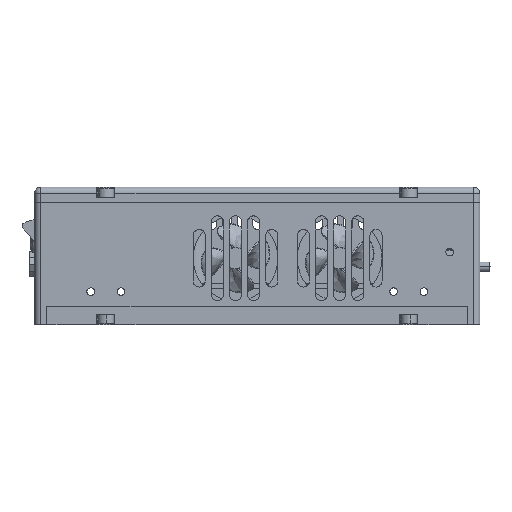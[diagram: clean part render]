
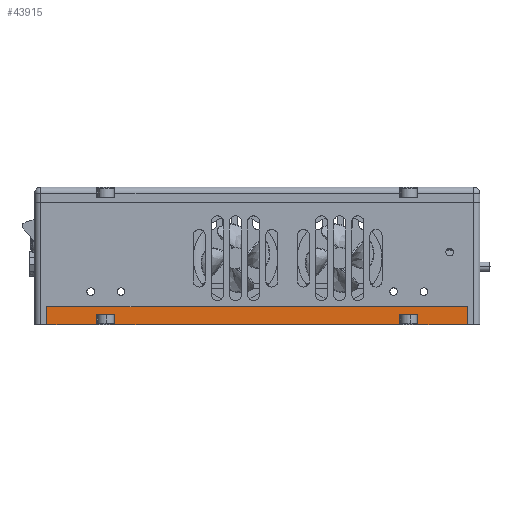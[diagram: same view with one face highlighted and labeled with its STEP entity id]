
A CAD part, left-side view. The second image highlights one B-rep face of the part: STEP entity #43915.
In plain terms, the highlighted planar face has unit normal (-1, 0, 0).
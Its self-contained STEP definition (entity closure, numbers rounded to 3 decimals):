
#355 = DIRECTION ( 'NONE',  ( 0., 0., -1. ) ) ;
#491 = EDGE_CURVE ( 'NONE', #34944, #37109, #7427, .T. ) ;
#760 = EDGE_CURVE ( 'NONE', #12449, #11922, #35094, .T. ) ;
#1223 = CARTESIAN_POINT ( 'NONE',  ( -83.28, -49.464, 163.4 ) ) ;
#3134 = CARTESIAN_POINT ( 'NONE',  ( -83.28, 73.036, 160. ) ) ;
#3333 = CARTESIAN_POINT ( 'NONE',  ( -83.28, -43.464, 163.4 ) ) ;
#3412 = VECTOR ( 'NONE', #47451, 1000. ) ;
#4203 = ORIENTED_EDGE ( 'NONE', *, *, #491, .T. ) ;
#4532 = VERTEX_POINT ( 'NONE', #40399 ) ;
#4608 = VECTOR ( 'NONE', #16336, 1000. ) ;
#5352 = EDGE_CURVE ( 'NONE', #12449, #4532, #7172, .T. ) ;
#5777 = DIRECTION ( 'NONE',  ( 0., 0., -1. ) ) ;
#5998 = LINE ( 'NONE', #33582, #4608 ) ;
#6333 = CARTESIAN_POINT ( 'NONE',  ( -83.28, 56.536, 163.4 ) ) ;
#6365 = VERTEX_POINT ( 'NONE', #3333 ) ;
#6765 = ORIENTED_EDGE ( 'NONE', *, *, #8650, .T. ) ;
#6873 = EDGE_CURVE ( 'NONE', #6365, #31600, #45139, .T. ) ;
#7172 = LINE ( 'NONE', #14295, #27201 ) ;
#7427 = LINE ( 'NONE', #36375, #17815 ) ;
#8303 = CARTESIAN_POINT ( 'NONE',  ( -83.28, -65.964, 166. ) ) ;
#8650 = EDGE_CURVE ( 'NONE', #37109, #33061, #45822, .T. ) ;
#9789 = VECTOR ( 'NONE', #43945, 1000. ) ;
#10490 = LINE ( 'NONE', #8303, #9789 ) ;
#10573 = CARTESIAN_POINT ( 'NONE',  ( -83.28, 50.536, 163.4 ) ) ;
#11566 = CARTESIAN_POINT ( 'NONE',  ( -83.28, 73.036, 160. ) ) ;
#11835 = ORIENTED_EDGE ( 'NONE', *, *, #45243, .F. ) ;
#11922 = VERTEX_POINT ( 'NONE', #32353 ) ;
#12079 = VECTOR ( 'NONE', #45497, 1000. ) ;
#12449 = VERTEX_POINT ( 'NONE', #6333 ) ;
#13579 = EDGE_CURVE ( 'NONE', #34732, #33520, #5998, .T. ) ;
#13922 = VECTOR ( 'NONE', #19561, 1000. ) ;
#14295 = CARTESIAN_POINT ( 'NONE',  ( -83.28, 56.536, 163.4 ) ) ;
#16202 = DIRECTION ( 'NONE',  ( 0., -1., 0. ) ) ;
#16336 = DIRECTION ( 'NONE',  ( 0., -1., 0. ) ) ;
#17015 = ORIENTED_EDGE ( 'NONE', *, *, #39696, .F. ) ;
#17650 = CARTESIAN_POINT ( 'NONE',  ( -83.28, 73.036, 166. ) ) ;
#17815 = VECTOR ( 'NONE', #355, 1000. ) ;
#18202 = VECTOR ( 'NONE', #46954, 1000. ) ;
#19561 = DIRECTION ( 'NONE',  ( 0., 0., -1. ) ) ;
#20791 = CARTESIAN_POINT ( 'NONE',  ( -83.28, 50.536, 160. ) ) ;
#21790 = CARTESIAN_POINT ( 'NONE',  ( -83.28, -65.964, 160. ) ) ;
#22826 = AXIS2_PLACEMENT_3D ( 'NONE', #17650, #39535, #57079 ) ;
#23277 = ORIENTED_EDGE ( 'NONE', *, *, #55341, .T. ) ;
#24688 = EDGE_CURVE ( 'NONE', #30044, #31600, #54093, .T. ) ;
#26521 = LINE ( 'NONE', #3134, #18202 ) ;
#26820 = LINE ( 'NONE', #27103, #29543 ) ;
#27103 = CARTESIAN_POINT ( 'NONE',  ( -83.28, -49.464, 163.4 ) ) ;
#27201 = VECTOR ( 'NONE', #5777, 1000. ) ;
#27829 = CARTESIAN_POINT ( 'NONE',  ( -83.28, 73.036, 166. ) ) ;
#28523 = CARTESIAN_POINT ( 'NONE',  ( -83.28, 73.036, 160. ) ) ;
#29458 = CARTESIAN_POINT ( 'NONE',  ( -83.28, -43.464, 160. ) ) ;
#29543 = VECTOR ( 'NONE', #40489, 1000. ) ;
#30044 = VERTEX_POINT ( 'NONE', #20791 ) ;
#30704 = VERTEX_POINT ( 'NONE', #53046 ) ;
#31600 = VERTEX_POINT ( 'NONE', #29458 ) ;
#32272 = ORIENTED_EDGE ( 'NONE', *, *, #54420, .T. ) ;
#32314 = VECTOR ( 'NONE', #16202, 1000. ) ;
#32353 = CARTESIAN_POINT ( 'NONE',  ( -83.28, 50.536, 163.4 ) ) ;
#32735 = ORIENTED_EDGE ( 'NONE', *, *, #6873, .F. ) ;
#33061 = VERTEX_POINT ( 'NONE', #21790 ) ;
#33373 = DIRECTION ( 'NONE',  ( 0., -1., 0. ) ) ;
#33520 = VERTEX_POINT ( 'NONE', #45429 ) ;
#33582 = CARTESIAN_POINT ( 'NONE',  ( -83.28, 73.036, 166. ) ) ;
#33989 = VECTOR ( 'NONE', #33373, 1000. ) ;
#34732 = VERTEX_POINT ( 'NONE', #38994 ) ;
#34944 = VERTEX_POINT ( 'NONE', #1223 ) ;
#35094 = LINE ( 'NONE', #42762, #32314 ) ;
#35515 = FACE_OUTER_BOUND ( 'NONE', #49458, .T. ) ;
#35572 = LINE ( 'NONE', #27829, #51608 ) ;
#36375 = CARTESIAN_POINT ( 'NONE',  ( -83.28, -49.464, 163.4 ) ) ;
#37109 = VERTEX_POINT ( 'NONE', #38866 ) ;
#38866 = CARTESIAN_POINT ( 'NONE',  ( -83.28, -49.464, 160. ) ) ;
#38994 = CARTESIAN_POINT ( 'NONE',  ( -83.28, 73.036, 166. ) ) ;
#39535 = DIRECTION ( 'NONE',  ( 1., 0., 0. ) ) ;
#39696 = EDGE_CURVE ( 'NONE', #34944, #6365, #26820, .T. ) ;
#40399 = CARTESIAN_POINT ( 'NONE',  ( -83.28, 56.536, 160. ) ) ;
#40489 = DIRECTION ( 'NONE',  ( 0., 1., 0. ) ) ;
#42762 = CARTESIAN_POINT ( 'NONE',  ( -83.28, 56.536, 163.4 ) ) ;
#43638 = EDGE_CURVE ( 'NONE', #34732, #30704, #35572, .T. ) ;
#43915 = ADVANCED_FACE ( 'NONE', ( #35515 ), #48500, .F. ) ;
#43945 = DIRECTION ( 'NONE',  ( 0., 0., -1. ) ) ;
#44106 = ORIENTED_EDGE ( 'NONE', *, *, #24688, .T. ) ;
#45139 = LINE ( 'NONE', #46128, #13922 ) ;
#45243 = EDGE_CURVE ( 'NONE', #33520, #33061, #10490, .T. ) ;
#45405 = ORIENTED_EDGE ( 'NONE', *, *, #5352, .F. ) ;
#45429 = CARTESIAN_POINT ( 'NONE',  ( -83.28, -65.964, 166. ) ) ;
#45497 = DIRECTION ( 'NONE',  ( 0., 0., -1. ) ) ;
#45822 = LINE ( 'NONE', #28523, #33989 ) ;
#46128 = CARTESIAN_POINT ( 'NONE',  ( -83.28, -43.464, 163.4 ) ) ;
#46265 = DIRECTION ( 'NONE',  ( 0., 0., -1. ) ) ;
#46544 = ORIENTED_EDGE ( 'NONE', *, *, #760, .T. ) ;
#46954 = DIRECTION ( 'NONE',  ( 0., -1., 0. ) ) ;
#47451 = DIRECTION ( 'NONE',  ( 0., -1., 0. ) ) ;
#47491 = LINE ( 'NONE', #10573, #12079 ) ;
#48500 = PLANE ( 'NONE',  #22826 ) ;
#49458 = EDGE_LOOP ( 'NONE', ( #45405, #46544, #32272, #44106, #32735, #17015, #4203, #6765, #11835, #52746, #56279, #23277 ) ) ;
#51608 = VECTOR ( 'NONE', #46265, 1000. ) ;
#52746 = ORIENTED_EDGE ( 'NONE', *, *, #13579, .F. ) ;
#53046 = CARTESIAN_POINT ( 'NONE',  ( -83.28, 73.036, 160. ) ) ;
#54093 = LINE ( 'NONE', #11566, #3412 ) ;
#54420 = EDGE_CURVE ( 'NONE', #11922, #30044, #47491, .T. ) ;
#55341 = EDGE_CURVE ( 'NONE', #30704, #4532, #26521, .T. ) ;
#56279 = ORIENTED_EDGE ( 'NONE', *, *, #43638, .T. ) ;
#57079 = DIRECTION ( 'NONE',  ( 0., 1., 0. ) ) ;
